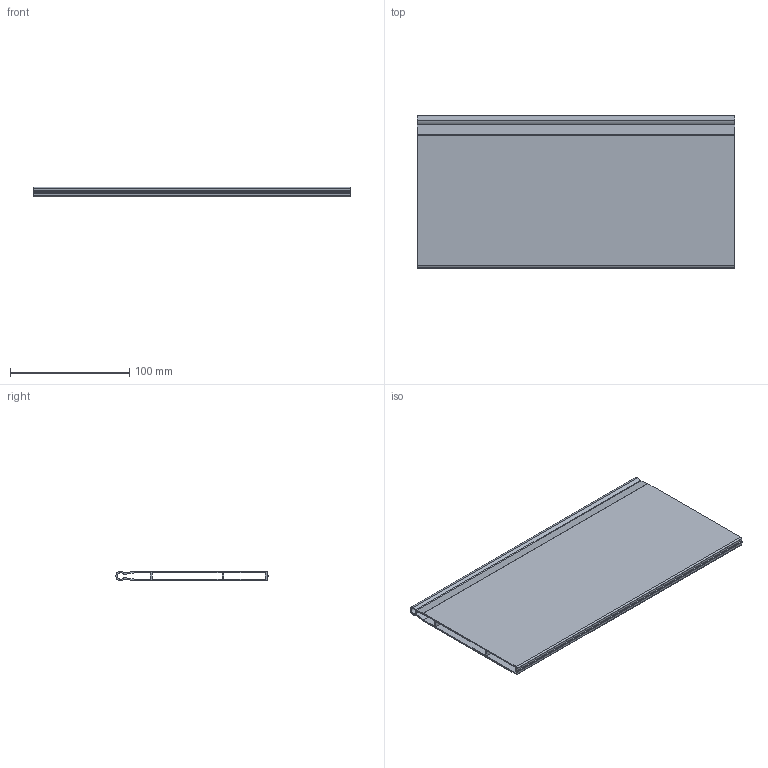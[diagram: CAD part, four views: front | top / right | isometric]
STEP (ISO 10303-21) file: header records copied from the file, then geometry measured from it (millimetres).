
FILE_DESCRIPTION (( 'STEP AP214' ), '1' );
FILE_NAME ('_Magic Optima Unterteilungsprofil DWD XP KAB 400.step', '2010-08-17T12:26:35', ( 'grass' ), ( '' ), 'SwSTEP 2.0', 'SolidWorks 2010', '' );
FILE_SCHEMA (( 'AUTOMOTIVE_DESIGN' ));
Length unit declared in the file: millimetre
Products named in the file (1): _Magic Optima Unterteilungsprofil DWD XP  KAB 400
Bounding box: 266 x 127.7 x 8.1 mm (x, y, z)
Volume: 93239.2 mm3; surface area: 144925.9 mm2
Topology: 1 solids, 1 shells, 39 faces, 111 edges, 74 vertices
Faces by surface type: plane 22, cylinder 17
Entity records: 1325 total; most frequent: CARTESIAN_POINT 225, DIRECTION 225, ORIENTED_EDGE 222, EDGE_CURVE 111, LINE 77, VECTOR 77, VERTEX_POINT 74, AXIS2_PLACEMENT_3D 74
